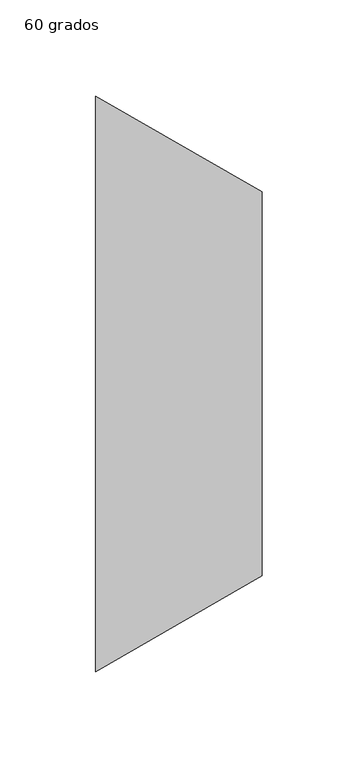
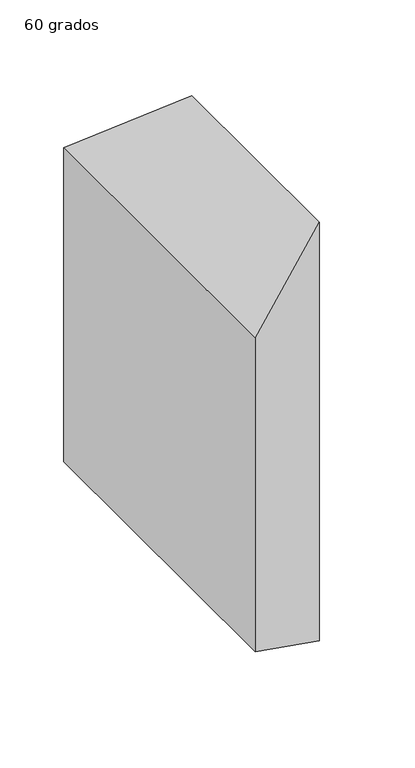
"""IFC4 building model written with IfcOpenShell, lengths in millimetres: duct fitting geometry, M_Transición rectangular - Ángulo : 60 grados."""

from ifc_helpers import new_model, si_unit, origin, place, context, project, spatial, faceted_brep, source, transform, mapped, element, save


def duct_fitting_60_grados_1c3fe716(model_context):
    return source(origin(), model_context, "Body", "Brep", [
        faceted_brep([(86.6025404, -100.0, 200.0), (86.6025404, -100.0, -200.0), (86.6025404, 100.0, -200.0), (86.6025404, 100.0, 200.0), (0.0, -150.0, 150.0), (0.0, 150.0, 150.0), (0.0, 150.0, -150.0), (0.0, -150.0, -150.0)], [[[0, 1, 2, 3]], [[4, 5, 6, 7]], [[4, 7, 1, 0]], [[7, 6, 2, 1]], [[6, 5, 3, 2]], [[5, 4, 0, 3]]]),
    ])


if __name__ == "__main__":
    model = new_model("IFC4")
    model_context = context("Model", 3, world=origin())
    ifc_project = project(units=[si_unit("LENGTHUNIT", "METRE", prefix="MILLI")], contexts=[model_context])
    site = spatial("IfcSite", under=ifc_project)
    building = spatial("IfcBuilding", under=site)
    placement = place(None, origin())
    duct_fitting_60_grados_shape = duct_fitting_60_grados_1c3fe716(model_context)
    element("IfcDuctFitting", 1, ObjectType="M_Transición rectangular - Ángulo : 60 grados", at=placement, inside=building, context=model_context, shape_type="MappedRepresentation", body=[
        mapped(duct_fitting_60_grados_shape, transform((0.0, 0.0, 0.0), x_axis=(1.0, 0.0, 0.0), y_axis=(0.0, 1.0, 0.0), z_axis=(0.0, 0.0, 1.0))),
    ])
    save(model, "model.ifc")
